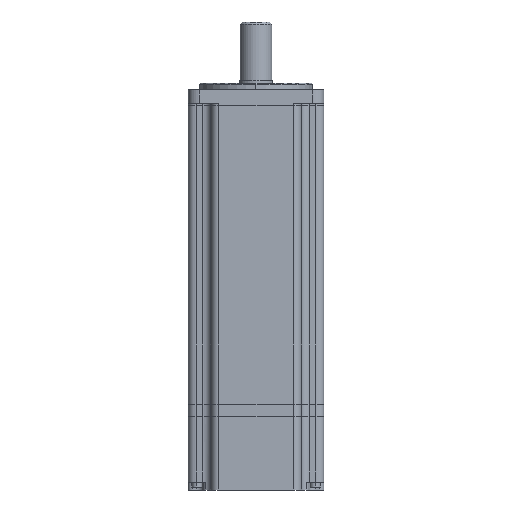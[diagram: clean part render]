
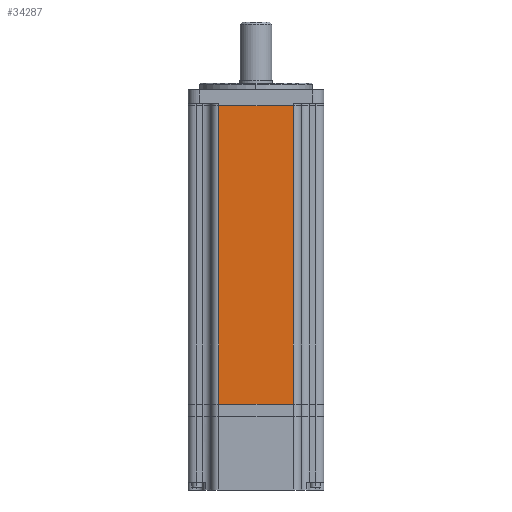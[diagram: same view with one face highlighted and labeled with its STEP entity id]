
A CAD part, left-side view. The second image highlights one B-rep face of the part: STEP entity #34287.
In plain terms, the highlighted planar face has unit normal (-1, 0, 0).
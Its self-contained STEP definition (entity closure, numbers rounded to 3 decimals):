
#201 = ORIENTED_EDGE ( 'NONE', *, *, #8133, .T. ) ;
#1195 = CARTESIAN_POINT ( 'NONE',  ( -30., -16.5, -132. ) ) ;
#1326 = EDGE_CURVE ( 'NONE', #42444, #5905, #10384, .T. ) ;
#1438 = CARTESIAN_POINT ( 'NONE',  ( -30., -20., 0. ) ) ;
#4228 = CARTESIAN_POINT ( 'NONE',  ( -30., -20., -132. ) ) ;
#4859 = FACE_OUTER_BOUND ( 'NONE', #43920, .T. ) ;
#5905 = VERTEX_POINT ( 'NONE', #24632 ) ;
#8133 = EDGE_CURVE ( 'NONE', #27961, #42444, #38616, .T. ) ;
#8249 = LINE ( 'NONE', #49246, #50227 ) ;
#8346 = DIRECTION ( 'NONE',  ( 0., 0., 1. ) ) ;
#9542 = CARTESIAN_POINT ( 'NONE',  ( -30., -16.5, 0. ) ) ;
#10384 = LINE ( 'NONE', #1438, #19952 ) ;
#12677 = ORIENTED_EDGE ( 'NONE', *, *, #32204, .T. ) ;
#16212 = CARTESIAN_POINT ( 'NONE',  ( -30., 16.5, -132. ) ) ;
#19952 = VECTOR ( 'NONE', #29912, 1000. ) ;
#22903 = VECTOR ( 'NONE', #33981, 1000. ) ;
#24632 = CARTESIAN_POINT ( 'NONE',  ( -30., 16.5, 0. ) ) ;
#25505 = ORIENTED_EDGE ( 'NONE', *, *, #42957, .F. ) ;
#27961 = VERTEX_POINT ( 'NONE', #1195 ) ;
#28869 = CARTESIAN_POINT ( 'NONE',  ( -30., -16.5, -132. ) ) ;
#29803 = AXIS2_PLACEMENT_3D ( 'NONE', #4228, #32700, #8346 ) ;
#29912 = DIRECTION ( 'NONE',  ( 0., 1., 0. ) ) ;
#32204 = EDGE_CURVE ( 'NONE', #5905, #51684, #8249, .T. ) ;
#32700 = DIRECTION ( 'NONE',  ( 1., 0., 0. ) ) ;
#32884 = DIRECTION ( 'NONE',  ( 0., 0., 1. ) ) ;
#33981 = DIRECTION ( 'NONE',  ( 0., 1., 0. ) ) ;
#34287 = ADVANCED_FACE ( 'NONE', ( #4859 ), #40710, .F. ) ;
#36974 = DIRECTION ( 'NONE',  ( 0., 0., -1. ) ) ;
#37316 = VECTOR ( 'NONE', #32884, 1000. ) ;
#38616 = LINE ( 'NONE', #28869, #37316 ) ;
#40710 = PLANE ( 'NONE',  #29803 ) ;
#42005 = CARTESIAN_POINT ( 'NONE',  ( -30., -20., -132. ) ) ;
#42444 = VERTEX_POINT ( 'NONE', #9542 ) ;
#42957 = EDGE_CURVE ( 'NONE', #27961, #51684, #43199, .T. ) ;
#43199 = LINE ( 'NONE', #42005, #22903 ) ;
#43920 = EDGE_LOOP ( 'NONE', ( #25505, #201, #45147, #12677 ) ) ;
#45147 = ORIENTED_EDGE ( 'NONE', *, *, #1326, .T. ) ;
#49246 = CARTESIAN_POINT ( 'NONE',  ( -30., 16.5, -132. ) ) ;
#50227 = VECTOR ( 'NONE', #36974, 1000. ) ;
#51684 = VERTEX_POINT ( 'NONE', #16212 ) ;
